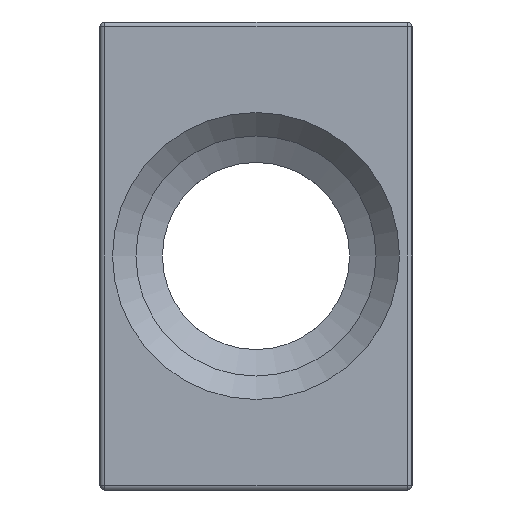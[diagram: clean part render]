
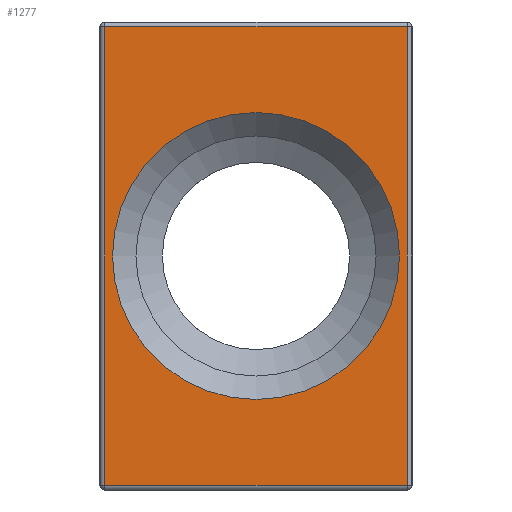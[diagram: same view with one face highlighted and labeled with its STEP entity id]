
A CAD part, left-side view. The second image highlights one B-rep face of the part: STEP entity #1277.
In plain terms, the highlighted planar face has unit normal (-1, 0, 0).
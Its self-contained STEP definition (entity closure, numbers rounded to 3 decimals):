
#59=FACE_BOUND('',#370,.T.);
#85=PLANE('',#1396);
#92=LINE('',#1976,#165);
#93=LINE('',#1992,#166);
#110=LINE('',#2038,#183);
#114=LINE('',#2044,#187);
#165=VECTOR('',#1556,10.);
#166=VECTOR('',#1575,10.);
#183=VECTOR('',#1632,10.);
#187=VECTOR('',#1640,10.);
#294=FACE_OUTER_BOUND('',#369,.T.);
#369=EDGE_LOOP('',(#935,#936,#937,#938));
#370=EDGE_LOOP('',(#939));
#474=CIRCLE('',#1397,9.197);
#550=VERTEX_POINT('',#1954);
#555=VERTEX_POINT('',#1964);
#558=VERTEX_POINT('',#1971);
#562=VERTEX_POINT('',#1985);
#574=VERTEX_POINT('',#2046);
#680=EDGE_CURVE('',#550,#558,#92,.T.);
#687=EDGE_CURVE('',#562,#555,#93,.T.);
#713=EDGE_CURVE('',#558,#562,#110,.T.);
#717=EDGE_CURVE('',#555,#550,#114,.T.);
#718=EDGE_CURVE('',#574,#574,#474,.T.);
#935=ORIENTED_EDGE('',*,*,#687,.F.);
#936=ORIENTED_EDGE('',*,*,#713,.F.);
#937=ORIENTED_EDGE('',*,*,#680,.F.);
#938=ORIENTED_EDGE('',*,*,#717,.F.);
#939=ORIENTED_EDGE('',*,*,#718,.F.);
#1277=ADVANCED_FACE('',(#294,#59),#85,.T.);
#1396=AXIS2_PLACEMENT_3D('',#2045,#1641,#1642);
#1397=AXIS2_PLACEMENT_3D('',#2047,#1643,#1644);
#1556=DIRECTION('',(0.,1.,0.));
#1575=DIRECTION('',(0.,-1.,0.));
#1632=DIRECTION('',(0.,0.,1.));
#1640=DIRECTION('',(0.,0.,-1.));
#1641=DIRECTION('center_axis',(-1.,0.,0.));
#1642=DIRECTION('ref_axis',(0.,0.,1.));
#1643=DIRECTION('center_axis',(-1.,0.,0.));
#1644=DIRECTION('ref_axis',(0.,1.,0.));
#1954=CARTESIAN_POINT('',(-78.,-9.7,-14.7));
#1964=CARTESIAN_POINT('',(-78.,-9.7,14.7));
#1971=CARTESIAN_POINT('',(-78.,9.7,-14.7));
#1976=CARTESIAN_POINT('',(-78.,0.,-14.7));
#1985=CARTESIAN_POINT('',(-78.,9.7,14.7));
#1992=CARTESIAN_POINT('',(-78.,0.,14.7));
#2038=CARTESIAN_POINT('',(-78.,9.7,-7.5));
#2044=CARTESIAN_POINT('',(-78.,-9.7,-7.5));
#2045=CARTESIAN_POINT('Origin',(-78.,0.,-15.));
#2046=CARTESIAN_POINT('',(-78.,-9.197,0.));
#2047=CARTESIAN_POINT('Origin',(-78.,0.,0.));
